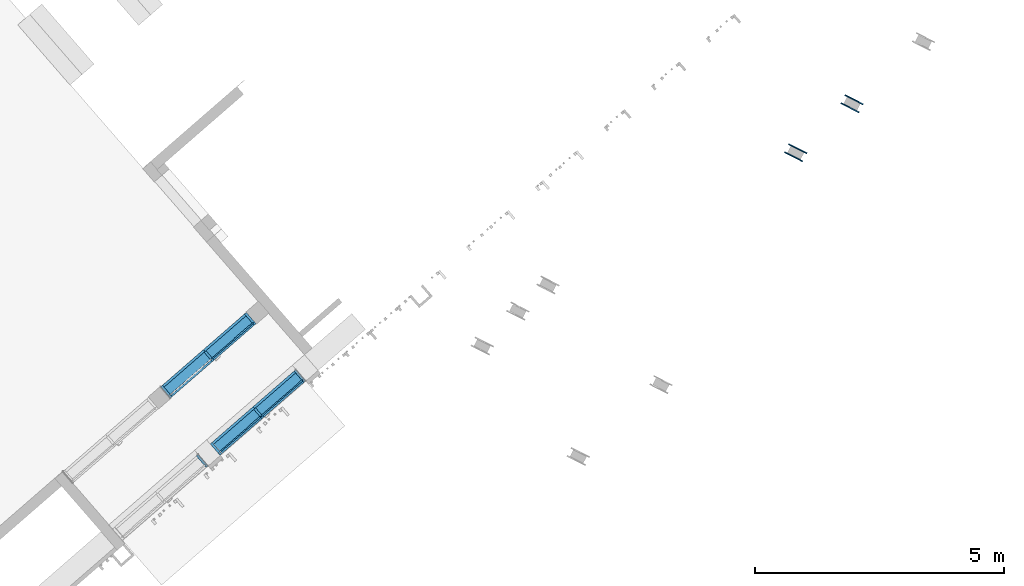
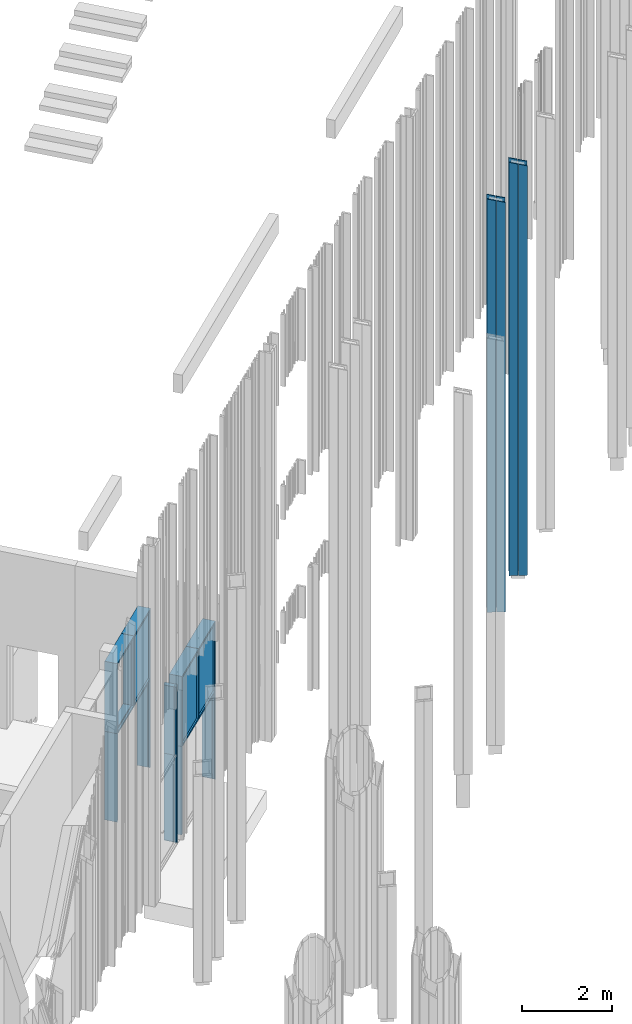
# One storey, part 41 of 390: 31 discrete accessories, 3 elements without a shape of their own.
"""IFC2X3 building model written with IfcOpenShell, lengths in millimetres."""

import ifcopenshell
import ifcopenshell.guid

model = None  # the IFC model being written
_history = None  # IfcOwnerHistory: only IFC2X3 demands one
_inside = {}  # id of a spatial element -> (the spatial element, [elements in it])
_under = {}  # id of a project, library or spatial element -> (it, [spatial elements below it])
_declared = {}  # id of a project -> (the project, [libraries it declares])
_typed = {}  # id of a type object -> (the type object, [elements of that type])
_made_of = {}  # id of a material, layer set ... -> (it, [elements and type objects made of it])


def new_model(schema):
    """Start an empty IFC model of exactly this schema.

    Asked for "IFC4X3", IfcOpenShell would pick the latest addendum, in which some entities
    have other attributes; the version numbers below select the first issue.
    IFC2X3 requires an IfcOwnerHistory on every rooted entity: one is made here for all.
    """
    global model, _history
    if schema == "IFC4X3":
        model = ifcopenshell.file(schema_version=(4, 3, 0, 0))
    else:
        model = ifcopenshell.file(schema=schema)
    _inside.clear()
    _under.clear()
    _declared.clear()
    _typed.clear()
    _made_of.clear()
    _history = None
    if model.schema == "IFC2X3":
        org = make("IfcOrganization", Name="unknown")
        user = make(
            "IfcPersonAndOrganization",
            ThePerson=make("IfcPerson", FamilyName="unknown"),
            TheOrganization=org,
        )
        app = make(
            "IfcApplication",
            ApplicationDeveloper=org,
            Version="unknown",
            ApplicationFullName="unknown",
            ApplicationIdentifier="unknown",
        )
        _history = make(
            "IfcOwnerHistory",
            OwningUser=user,
            OwningApplication=app,
            ChangeAction="ADDED",
            CreationDate=0,
        )
    return model


def make(cls, **values):
    """One entity of the class cls with the attributes given. An attribute that is None is left unset."""
    return model.create_entity(
        cls, **{name: value for name, value in values.items() if value is not None}
    )


def entity(cls, *values):
    """Any entity or typed value of the class cls, its attributes in the order of the schema. None: left unset."""
    e = model.create_entity(cls)
    for i, value in enumerate(values):
        if value is not None:
            e[i] = value
    return e


def rooted(cls, **values):
    """An entity with a GlobalId (a new one), such as an element, a storey or a relation."""
    return make(cls, GlobalId=ifcopenshell.guid.new(), OwnerHistory=_history, **values)


def si_unit(unit_type, name, prefix=None):
    """IfcSIUnit, for example si_unit("LENGTHUNIT", "METRE", prefix="MILLI")."""
    return make("IfcSIUnit", UnitType=unit_type, Prefix=prefix, Name=name)


def converted_unit(unit_type, name, factor, base, dimensions=None, offset=None):
    """IfcConversionBasedUnit, such as the inch: factor (a typed value) times the base unit."""
    return make(
        "IfcConversionBasedUnit"
        if offset is None
        else "IfcConversionBasedUnitWithOffset",
        ConversionOffset=offset,
        Dimensions=None
        if dimensions is None
        else entity("IfcDimensionalExponents", *dimensions),
        UnitType=unit_type,
        Name=name,
        ConversionFactor=make(
            "IfcMeasureWithUnit", ValueComponent=factor, UnitComponent=base
        ),
    )


def derived_unit(unit_type, elements):
    """IfcDerivedUnit: a product of units, each with its exponent."""
    return make(
        "IfcDerivedUnit",
        Elements=[
            make("IfcDerivedUnitElement", Unit=unit, Exponent=power)
            for unit, power in elements
        ],
        UnitType=unit_type,
    )


def money_unit(currency):
    """IfcMonetaryUnit."""
    return make("IfcMonetaryUnit", Currency=currency)


def assignment(units):
    """IfcUnitAssignment: the units of a project."""
    return None if units is None else make("IfcUnitAssignment", Units=units)


def point(xyz):
    """IfcCartesianPoint."""
    return None if xyz is None else make("IfcCartesianPoint", Coordinates=xyz)


def direction(xyz):
    """IfcDirection."""
    return None if xyz is None else make("IfcDirection", DirectionRatios=xyz)


def frame(location, z_axis=None, x_axis=None):
    """IfcAxis2Placement3D, a coordinate frame: its origin and axes. An axis left out is left unset."""
    return make(
        "IfcAxis2Placement3D",
        Location=point(location),
        Axis=direction(z_axis),
        RefDirection=direction(x_axis),
    )


def origin_with_axes():
    """The frame at (0, 0, 0) with the z axis (0, 0, 1) and the x axis (1, 0, 0) written out."""
    return frame((0.0, 0.0, 0.0), z_axis=(0.0, 0.0, 1.0), x_axis=(1.0, 0.0, 0.0))


def place(relative_to, where):
    """IfcLocalPlacement: puts the frame where relative to a parent placement (None: the world)."""
    return make(
        "IfcLocalPlacement", PlacementRelTo=relative_to, RelativePlacement=where
    )


def context(
    kind, dimensions, precision=None, world=None, true_north=None, identifier=None
):
    """IfcGeometricRepresentationContext, for example the 3D "Model" context."""
    return make(
        "IfcGeometricRepresentationContext",
        ContextIdentifier=identifier,
        ContextType=kind,
        CoordinateSpaceDimension=dimensions,
        Precision=precision,
        WorldCoordinateSystem=world,
        TrueNorth=true_north,
    )


def subcontext(parent, identifier, kind, view, scale=None):
    """IfcGeometricRepresentationSubContext, for example "Body" below "Model"."""
    return make(
        "IfcGeometricRepresentationSubContext",
        ContextIdentifier=identifier,
        ContextType=kind,
        ParentContext=parent,
        TargetScale=scale,
        TargetView=view,
    )


def project(units=None, contexts=None):
    """IfcProject with its units and contexts."""
    return rooted(
        "IfcProject",
        Name="project",
        RepresentationContexts=contexts,
        UnitsInContext=assignment(units),
    )


def spatial(cls, under=None, at=None, **own):
    """A site, building, storey or space (cls), placed at a placement, below another one or the project."""
    s = rooted(cls, ObjectPlacement=at, **own)
    if under is not None:
        _under.setdefault(under.id(), (under, []))[1].append(s)
    return s


def polyline(points):
    """IfcPolyline through the points."""
    return make("IfcPolyline", Points=[point(p) for p in points])


def outline(outer, holes=None, kind="AREA"):
    """IfcArbitraryClosedProfileDef: a profile drawn as a closed curve; with holes, ...WithVoids."""
    if holes is None:
        return make("IfcArbitraryClosedProfileDef", ProfileType=kind, OuterCurve=outer)
    return make(
        "IfcArbitraryProfileDefWithVoids",
        ProfileType=kind,
        OuterCurve=outer,
        InnerCurves=holes,
    )


def extrude(swept, where, along, depth):
    """IfcExtrudedAreaSolid: the profile swept, set in the frame where, extruded along a direction by depth."""
    return make(
        "IfcExtrudedAreaSolid",
        SweptArea=swept,
        Position=where,
        ExtrudedDirection=direction(along),
        Depth=depth,
    )


def clip(a, b, op="DIFFERENCE"):
    """IfcBooleanClippingResult: the solid a cut by the half space b."""
    return make(
        "IfcBooleanClippingResult", Operator=op, FirstOperand=a, SecondOperand=b
    )


def halfspace(plane, agree):
    """IfcHalfSpaceSolid: all space on one side of the plane z = 0 of the frame plane."""
    return make(
        "IfcHalfSpaceSolid",
        BaseSurface=make("IfcPlane", Position=plane),
        AgreementFlag=agree,
    )


def faces_of(points, faces, orient=None, outer=None):
    """IfcFace entities. A face is a list of loops; a loop is a list of indices into points, from 0.

    orient and outer hold one flag for each loop. By default every Orientation is true, the
    first loop of a face is its IfcFaceOuterBound and the others are IfcFaceBound.
    """
    made = []
    for i, loops in enumerate(faces):
        bounds = []
        for j, loop in enumerate(loops):
            is_outer = j == 0 if outer is None else outer[i][j]
            bounds.append(
                make(
                    "IfcFaceOuterBound" if is_outer else "IfcFaceBound",
                    Bound=make("IfcPolyLoop", Polygon=[points[k] for k in loop]),
                    Orientation=True if orient is None else orient[i][j],
                )
            )
        made.append(make("IfcFace", Bounds=bounds))
    return made


def faceted_brep(points, faces, orient=None, outer=None, voids=None):
    """IfcFacetedBrep: a solid bounded by flat faces; with voids (closed shells), ...WithVoids."""
    shared = [point(p) for p in points]
    hull = make("IfcClosedShell", CfsFaces=faces_of(shared, faces, orient, outer))
    if voids is None:
        return make("IfcFacetedBrep", Outer=hull)
    return make(
        "IfcFacetedBrepWithVoids",
        Outer=hull,
        Voids=[
            make(cls, CfsFaces=faces_of(shared, fs, o, b)) for cls, fs, o, b in voids
        ],
    )


def shape(context_of_items, identifier, shape_type, items):
    """IfcShapeRepresentation: the items that make up one representation, for example the "Body"."""
    return make(
        "IfcShapeRepresentation",
        ContextOfItems=context_of_items,
        RepresentationIdentifier=identifier,
        RepresentationType=shape_type,
        Items=items,
    )


def source(mapping_origin, context_of_items, identifier, shape_type, items):
    """IfcRepresentationMap: a shape defined once, which mapped items show again and again."""
    return make(
        "IfcRepresentationMap",
        MappingOrigin=mapping_origin,
        MappedRepresentation=shape(context_of_items, identifier, shape_type, items),
    )


def transform(
    local_origin,
    x_axis=None,
    y_axis=None,
    z_axis=None,
    scale=None,
    scale2=None,
    scale3=None,
    uniform=True,
):
    """IfcCartesianTransformationOperator3D, or its non-uniform kind. x_axis, y_axis, z_axis: its Axis1, 2, 3."""
    if uniform:
        return make(
            "IfcCartesianTransformationOperator3D",
            Axis1=direction(x_axis),
            Axis2=direction(y_axis),
            LocalOrigin=point(local_origin),
            Scale=scale,
            Axis3=direction(z_axis),
        )
    return make(
        "IfcCartesianTransformationOperator3DnonUniform",
        Axis1=direction(x_axis),
        Axis2=direction(y_axis),
        LocalOrigin=point(local_origin),
        Scale=scale,
        Axis3=direction(z_axis),
        Scale2=scale2,
        Scale3=scale3,
    )


def mapped(mapping_source, mapping_target):
    """IfcMappedItem: shows the shape of a source again, moved by a transform."""
    return make(
        "IfcMappedItem", MappingSource=mapping_source, MappingTarget=mapping_target
    )


def material(Name=None, Category=None):
    """IfcMaterial."""
    return make("IfcMaterial", Name=Name, Category=Category)


def material_list(materials):
    """IfcMaterialList."""
    return make("IfcMaterialList", Materials=materials)


def made_of(thing, what):
    """Note that an element or type object is made of a material, layer set ...; save() writes the relation."""
    if what is not None:
        _made_of.setdefault(what.id(), (what, []))[1].append(thing)
    return thing


def type_object(cls, material=None, **own):
    """A type object (cls), such as IfcWallType, which elements share."""
    return made_of(rooted(cls, **own), material)


def element(
    cls,
    number,
    at=None,
    inside=None,
    cuts=None,
    type_object=None,
    material=None,
    context=None,
    identifier="Body",
    shape_type=None,
    held_by="IfcProductDefinitionShape",
    body=None,
    shapes=None,
    **own,
):
    """One element of the class cls, such as IfcWall. Its Tag is "e" and its number.

    at: its placement. inside: the storey or other place that contains it. cuts: it is an
    opening in that element (IfcRelVoidsElement). A single representation is given by context,
    identifier, shape_type and body (its items); several are given by shapes. held_by: the class
    of the entity that holds the representations. save() writes the other relations.
    """
    e = rooted(cls, Tag="e%d" % number, ObjectPlacement=at, **own)
    if body is not None:
        shapes = [shape(context, identifier, shape_type, body)]
    if shapes is not None:
        e.Representation = make(held_by, Representations=shapes)
    if inside is not None:
        _inside.setdefault(inside.id(), (inside, []))[1].append(e)
    if cuts is not None:
        rooted(
            "IfcRelVoidsElement", RelatingBuildingElement=cuts, RelatedOpeningElement=e
        )
    if type_object is not None:
        _typed.setdefault(type_object.id(), (type_object, []))[1].append(e)
    return made_of(e, material)


def aggregate(whole, parts):
    """IfcRelAggregates: a whole, such as a stair, and the parts it consists of."""
    return rooted("IfcRelAggregates", RelatingObject=whole, RelatedObjects=parts)


def save(model, path):
    """Write the relations noted so far, then the file.

    IfcRelAggregates (storeys below a building ...), IfcRelContainedInSpatialStructure (elements
    in a storey), IfcRelDefinesByType, IfcRelAssociatesMaterial and IfcRelDeclares: one each for
    every whole, place, type object, material and project.
    """
    for whole, parts in _under.values():
        aggregate(whole, parts)
    for where, things in _inside.values():
        rooted(
            "IfcRelContainedInSpatialStructure",
            RelatedElements=things,
            RelatingStructure=where,
        )
    for kind, things in _typed.values():
        rooted("IfcRelDefinesByType", RelatedObjects=things, RelatingType=kind)
    for what, things in _made_of.values():
        rooted("IfcRelAssociatesMaterial", RelatedObjects=things, RelatingMaterial=what)
    for by, libraries in _declared.values():
        rooted("IfcRelDeclares", RelatingContext=by, RelatedDefinitions=libraries)
    model.write(path)


model = new_model("IFC2X3")

# Units and contexts
model_context = context("Model", 3, precision=1e-05, world=origin_with_axes(), true_north=direction((0.0, 1.0)))
body_context = subcontext(model_context, "Body", "Model", "MODEL_VIEW")
ifc_project = project(units=[si_unit("LENGTHUNIT", "METRE", prefix="MILLI"), si_unit("AREAUNIT", "SQUARE_METRE"), si_unit("VOLUMEUNIT", "CUBIC_METRE"), converted_unit("PLANEANGLEUNIT", "DEGREE", entity("IfcPlaneAngleMeasure", 0.0174532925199), si_unit("PLANEANGLEUNIT", "RADIAN"), dimensions=[0, 0, 0, 0, 0, 0, 0]), si_unit("SOLIDANGLEUNIT", "STERADIAN"), money_unit("EUR"), converted_unit("TIMEUNIT", "Year", entity("IfcTimeMeasure", 31556926.0), si_unit("TIMEUNIT", "SECOND"), dimensions=[0, 0, 1, 0, 0, 0, 0]), si_unit("MASSUNIT", "GRAM", prefix="KILO"), si_unit("THERMODYNAMICTEMPERATUREUNIT", "DEGREE_CELSIUS"), si_unit("LUMINOUSINTENSITYUNIT", "LUMEN"), si_unit("ENERGYUNIT", "JOULE", prefix="MEGA"), derived_unit("THERMALCONDUCTANCEUNIT", [(si_unit("POWERUNIT", "WATT"), 1), (si_unit("LENGTHUNIT", "METRE"), -1), (si_unit("THERMODYNAMICTEMPERATUREUNIT", "KELVIN"), -1)]), derived_unit("SPECIFICHEATCAPACITYUNIT", [(si_unit("ENERGYUNIT", "JOULE"), 1), (si_unit("MASSUNIT", "GRAM", prefix="KILO"), -1), (si_unit("THERMODYNAMICTEMPERATUREUNIT", "KELVIN"), -1)]), derived_unit("MASSDENSITYUNIT", [(si_unit("MASSUNIT", "GRAM", prefix="KILO"), 1), (si_unit("VOLUMEUNIT", "CUBIC_METRE"), -1)])], contexts=[model_context])

# Site, building, storey
site_placement = place(None, origin_with_axes())
site = spatial("IfcSite", under=ifc_project, at=site_placement, Name="Site", CompositionType="ELEMENT")
building_placement = place(site_placement, origin_with_axes())
building = spatial("IfcBuilding", under=site, at=building_placement, Name="Building", CompositionType="ELEMENT")
storey_placement = place(building_placement, origin_with_axes())
storey = spatial("IfcBuildingStorey", under=building, at=storey_placement, Name="1 korrus", CompositionType="ELEMENT", Elevation=0.0)

# Curtain wall, discrete accessories
curtain_wall_type_1 = type_object("IfcCurtainWallType", Name="KLF-11", PredefinedType="NOTDEFINED")
curtain_wall_1_placement = place(storey_placement, frame((147184.214705, 72790.554617, -9.48523471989e-05), z_axis=(0.0, 0.0, 1.0), x_axis=(1.0, 0.0, 0.0)))
curtain_wall_1 = element("IfcCurtainWall", 1, at=curtain_wall_1_placement, inside=storey, type_object=curtain_wall_type_1, Name="Klaasfassaad")
ifc_material_1 = material(Name="Klaas")
discrete_accessory_type_1 = type_object("IfcDiscreteAccessoryType", Name="Distinct Panel 1120 x 1880 x 20")
discrete_accessory_1_placement = place(curtain_wall_1_placement, frame((0.0, 0.0, 3350.00012567), z_axis=(0.0, 0.0, 1.0), x_axis=(0.754709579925, 0.656059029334, 0.0)))
discrete_accessory_1 = element("IfcDiscreteAccessory", 2, at=discrete_accessory_1_placement, type_object=discrete_accessory_type_1, material=ifc_material_1, Name="KLF-11 klaaspakett", context=body_context, shape_type="SweptSolid", body=[
    extrude(outline(polyline([(-549.999988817, -930.000042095), (570.000002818, -930.000042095), (570.000002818, 950.000030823), (-549.999988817, 950.000030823), (-549.999988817, -930.000042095)])), frame((0.0, -10.0, 0.0), z_axis=(0.0, 1.0, 0.0), x_axis=(1.0, 0.0, 0.0)), (0.0, 0.0, 1.0), 20.0),
])
discrete_accessory_type_2 = type_object("IfcDiscreteAccessoryType", Name="Main Panel 1120 x 1880 x 20")
discrete_accessory_2_placement = place(curtain_wall_1_placement, frame((860.368921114, 747.90729344, 3350.00012567), z_axis=(0.0, 0.0, 1.0), x_axis=(0.754709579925, 0.656059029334, 0.0)))
discrete_accessory_2 = element("IfcDiscreteAccessory", 3, at=discrete_accessory_2_placement, type_object=discrete_accessory_type_2, material=ifc_material_1, Name="KLF-11 klaaspakett", context=body_context, shape_type="SweptSolid", body=[
    extrude(outline(polyline([(-570.000008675, -930.000042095), (550.000011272, -930.000042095), (550.000011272, 950.000030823), (-570.000008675, 950.000030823), (-570.000008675, -930.000042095)])), frame((0.0, -9.99999999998, 0.0), z_axis=(0.0, 1.0, 0.0), x_axis=(1.0, 0.0, 0.0)), (0.0, 0.0, 1.0), 20.0),
])
ifc_material_2 = material(Name="Aluminium MUST")
discrete_accessory_type_3 = type_object("IfcDiscreteAccessoryType", Name="50 x 300")
discrete_accessory_3_placement = place(curtain_wall_1_placement, frame((1290.55338167, 1121.86094016, 2400.00009485), z_axis=(0.0, 0.0, 1.0), x_axis=(0.754709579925, 0.656059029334, 0.0)))
discrete_accessory_3 = element("IfcDiscreteAccessory", 4, at=discrete_accessory_3_placement, type_object=discrete_accessory_type_3, material=ifc_material_2, Name="KLF-11 profiil", context=body_context, shape_type="Clipping", body=[
    clip(extrude(outline(polyline([(-25.4283297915, -8.85437993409), (-12.3071492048, -23.9485715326), (-31.1748887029, -40.3500472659), (-4.93252752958, -70.5384304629), (32.8029514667, -37.7354789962), (-164.014757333, 188.677394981), (-201.75023633, 155.874443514), (-44.2960692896, -25.2558556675), (-25.4283297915, -8.85437993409)])), frame((0.0, 0.0, 0.0), z_axis=(0.0, 0.0, 1.0), x_axis=(0.754709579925, -0.656059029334, 0.0)), (0.0, 0.0, 1.0), 1900.00006165), halfspace(frame((-950.000030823, 0.0, 950.000030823), z_axis=(0.707106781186, 0.0, -0.707106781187), x_axis=(0.0, 1.0, 0.0)), True)),
])
discrete_accessory_4_placement = place(curtain_wall_1_placement, frame((-430.184460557, -373.95364672, 0.0), z_axis=(0.0, 0.0, 1.0), x_axis=(0.754709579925, 0.656059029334, 0.0)))
discrete_accessory_4 = element("IfcDiscreteAccessory", 5, at=discrete_accessory_4_placement, type_object=discrete_accessory_type_3, material=ifc_material_2, Name="KLF-11 profiil", context=body_context, shape_type="Clipping", body=[
    clip(extrude(outline(polyline([(12.3071492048, 23.9485715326), (31.1748887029, 40.3500472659), (-126.279278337, 221.480346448), (-164.014757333, 188.677394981), (32.8029514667, -37.7354789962), (70.5384304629, -4.93252752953), (44.2960692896, 25.2558556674), (25.4283297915, 8.85437993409), (12.3071492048, 23.9485715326)])), frame((0.0, 0.0, 0.0), z_axis=(0.0, 0.0, 1.0), x_axis=(0.754709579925, -0.656059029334, 0.0)), (0.0, 0.0, 1.0), 2400.00009485), halfspace(frame((0.0, 0.0, 0.0), z_axis=(-0.707106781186, 0.0, 0.707106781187), x_axis=(0.0, -1.0, 0.0)), True)),
])
discrete_accessory_5_placement = place(curtain_wall_1_placement, frame((1290.55338167, 1121.86094016, 4300.0001565), z_axis=(-0.754709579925, -0.656059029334, 0.0), x_axis=(0.0, 0.0, 1.0)))
discrete_accessory_5 = element("IfcDiscreteAccessory", 6, at=discrete_accessory_5_placement, type_object=discrete_accessory_type_3, material=ifc_material_2, Name="KLF-11 profiil", context=body_context, shape_type="Clipping", body=[
    clip(extrude(outline(polyline([(10.0, 25.0), (-9.99999999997, 25.0), (-9.99999999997, 50.0), (-50.0, 50.0), (-50.0, 0.0), (250.0, 0.0), (250.0, 50.0), (10.0, 50.0), (10.0, 25.0)])), frame((0.0, 0.0, 0.0), z_axis=(0.0, 0.0, 1.0), x_axis=(0.0, 1.0, 0.0)), (0.0, 0.0, 1.0), 1140.0), halfspace(frame((0.0, 0.0, 0.0), z_axis=(0.707106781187, 0.0, 0.707106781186), x_axis=(0.0, -1.0, 0.0)), True)),
])
discrete_accessory_6_placement = place(curtain_wall_1_placement, frame((430.184460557, 373.95364672, 4300.0001565), z_axis=(-0.754709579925, -0.656059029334, 0.0), x_axis=(0.0, 0.0, 1.0)))
discrete_accessory_6 = element("IfcDiscreteAccessory", 7, at=discrete_accessory_6_placement, type_object=discrete_accessory_type_3, material=ifc_material_2, Name="KLF-11 profiil", context=body_context, shape_type="Clipping", body=[
    clip(extrude(outline(polyline([(10.0, 25.0), (-9.99999999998, 25.0), (-9.99999999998, 50.0), (-50.0, 50.0), (-50.0, 0.0), (250.0, 0.0), (250.0, 50.0), (10.0, 50.0), (10.0, 25.0)])), frame((0.0, 0.0, 0.0), z_axis=(0.0, 0.0, 1.0), x_axis=(0.0, 1.0, 0.0)), (0.0, 0.0, 1.0), 1140.0), halfspace(frame((-570.0, 0.0, 570.0), z_axis=(0.707106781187, 0.0, -0.707106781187), x_axis=(0.0, 1.0, 0.0)), True)),
])
discrete_accessory_7_placement = place(curtain_wall_1_placement, frame((-430.184460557, -373.95364672, 2400.00009485), z_axis=(0.0, 0.0, 1.0), x_axis=(0.754709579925, 0.656059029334, 0.0)))
discrete_accessory_7 = element("IfcDiscreteAccessory", 8, at=discrete_accessory_7_placement, type_object=discrete_accessory_type_3, material=ifc_material_2, Name="KLF-11 profiil", context=body_context, shape_type="Clipping", body=[
    clip(extrude(outline(polyline([(12.3071492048, 23.9485715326), (31.1748887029, 40.3500472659), (-126.279278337, 221.480346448), (-164.014757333, 188.677394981), (32.8029514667, -37.7354789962), (70.5384304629, -4.93252752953), (44.2960692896, 25.2558556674), (25.4283297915, 8.85437993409), (12.3071492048, 23.9485715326)])), frame((0.0, 0.0, 0.0), z_axis=(0.0, 0.0, 1.0), x_axis=(0.754709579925, -0.656059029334, 0.0)), (0.0, 0.0, 1.0), 1900.00006165), halfspace(frame((950.000030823, 0.0, 950.000030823), z_axis=(-0.707106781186, 0.0, -0.707106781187), x_axis=(0.0, 1.0, 0.0)), True)),
])
discrete_accessory_8_placement = place(curtain_wall_1_placement, frame((1290.55338167, 1121.86094016, 0.0), z_axis=(0.0, 0.0, 1.0), x_axis=(0.754709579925, 0.656059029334, 0.0)))
discrete_accessory_8 = element("IfcDiscreteAccessory", 9, at=discrete_accessory_8_placement, type_object=discrete_accessory_type_3, material=ifc_material_2, Name="KLF-11 profiil", context=body_context, shape_type="Clipping", body=[
    clip(extrude(outline(polyline([(-25.4283297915, -8.85437993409), (-12.3071492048, -23.9485715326), (-31.1748887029, -40.3500472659), (-4.93252752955, -70.5384304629), (32.8029514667, -37.7354789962), (-164.014757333, 188.677394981), (-201.75023633, 155.874443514), (-44.2960692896, -25.2558556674), (-25.4283297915, -8.85437993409)])), frame((0.0, 0.0, 0.0), z_axis=(0.0, 0.0, 1.0), x_axis=(0.754709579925, -0.656059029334, 0.0)), (0.0, 0.0, 1.0), 2400.00009485), halfspace(frame((0.0, 0.0, 0.0), z_axis=(0.707106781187, 0.0, 0.707106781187), x_axis=(0.0, -1.0, 0.0)), True)),
])

curtain_wall_2_placement = place(storey_placement, frame((145221.984499, 71084.8139219, -9.48523471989e-05), z_axis=(0.0, 0.0, 1.0), x_axis=(1.0, 0.0, 0.0)))
curtain_wall_2 = element("IfcCurtainWall", 10, at=curtain_wall_2_placement, inside=storey, type_object=curtain_wall_type_1, Name="Klaasfassaad")
discrete_accessory_9_placement = place(curtain_wall_2_placement, frame((1290.55338167, 1121.86094016, 2400.00009485), z_axis=(0.0, 0.0, 1.0), x_axis=(0.754709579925, 0.656059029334, 0.0)))
discrete_accessory_9 = element("IfcDiscreteAccessory", 11, at=discrete_accessory_9_placement, type_object=discrete_accessory_type_3, material=ifc_material_2, Name="KLF-11 profiil", context=body_context, shape_type="Clipping", body=[
    clip(extrude(outline(polyline([(-25.4283297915, -8.85437993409), (-12.3071492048, -23.9485715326), (-31.1748887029, -40.3500472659), (-4.93252752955, -70.5384304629), (32.8029514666, -37.7354789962), (-164.014757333, 188.677394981), (-201.75023633, 155.874443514), (-44.2960692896, -25.2558556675), (-25.4283297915, -8.85437993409)])), frame((0.0, 0.0, 0.0), z_axis=(0.0, 0.0, 1.0), x_axis=(0.754709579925, -0.656059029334, 0.0)), (0.0, 0.0, 1.0), 1900.00006165), halfspace(frame((-950.000030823, 0.0, 950.000030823), z_axis=(0.707106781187, 0.0, -0.707106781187), x_axis=(0.0, 1.0, 0.0)), True)),
])
discrete_accessory_10_placement = place(curtain_wall_2_placement, frame((1290.55338167, 1121.86094016, 0.0), z_axis=(0.0, 0.0, 1.0), x_axis=(0.754709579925, 0.656059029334, 0.0)))
discrete_accessory_10 = element("IfcDiscreteAccessory", 12, at=discrete_accessory_10_placement, type_object=discrete_accessory_type_3, material=ifc_material_2, Name="KLF-11 profiil", context=body_context, shape_type="Clipping", body=[
    clip(extrude(outline(polyline([(-25.4283297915, -8.85437993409), (-12.3071492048, -23.9485715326), (-31.1748887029, -40.3500472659), (-4.93252752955, -70.5384304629), (32.8029514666, -37.7354789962), (-164.014757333, 188.677394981), (-201.75023633, 155.874443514), (-44.2960692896, -25.2558556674), (-25.4283297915, -8.85437993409)])), frame((0.0, 0.0, 0.0), z_axis=(0.0, 0.0, 1.0), x_axis=(0.754709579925, -0.656059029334, 0.0)), (0.0, 0.0, 1.0), 2400.00009485), halfspace(frame((0.0, 0.0, 0.0), z_axis=(0.707106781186, 0.0, 0.707106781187), x_axis=(0.0, -1.0, 0.0)), True)),
])
aggregate(curtain_wall_2, [discrete_accessory_9, discrete_accessory_10])

# Discrete accessory
ifc_material_list = material_list([ifc_material_2, ifc_material_2])
discrete_accessory_type_4 = type_object("IfcDiscreteAccessoryType", Name="50 x 250")
discrete_accessory_11_placement = place(curtain_wall_1_placement, frame((430.184460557, 373.95364672, 2400.00009485), z_axis=(-0.754709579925, -0.656059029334, 0.0), x_axis=(0.0, 0.0, 1.0)))
discrete_accessory_11 = element("IfcDiscreteAccessory", 13, at=discrete_accessory_11_placement, type_object=discrete_accessory_type_4, material=ifc_material_list, Name="KLF-11 profiil", context=body_context, shape_type="SweptSolid", body=[
    extrude(outline(polyline([(10.0, -25.0), (200.0, -25.0), (200.0, 25.0), (10.0, 25.0), (10.0, -25.0)])), frame((0.0, 0.0, 25.0), z_axis=(0.0, 0.0, 1.0), x_axis=(0.0, 1.0, 0.0)), (0.0, 0.0, 1.0), 1065.0),
    extrude(outline(polyline([(-10.0, 25.0), (-50.0, 25.0), (-50.0, -25.0), (-10.0, -25.0), (-10.0, 25.0)])), frame((0.0, 0.0, 25.0), z_axis=(0.0, 0.0, 1.0), x_axis=(0.0, 1.0, 0.0)), (0.0, 0.0, 1.0), 1065.0),
])

discrete_accessory_12_placement = place(curtain_wall_1_placement, frame((430.184460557, 373.95364672, 2400.00009485), z_axis=(0.0, 0.0, 1.0), x_axis=(0.754709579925, 0.656059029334, 0.0)))
discrete_accessory_12 = element("IfcDiscreteAccessory", 14, at=discrete_accessory_12_placement, type_object=discrete_accessory_type_4, material=ifc_material_list, Name="KLF-11 profiil", context=body_context, shape_type="SweptSolid", body=[
    extrude(outline(polyline([(12.3071492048, 23.9485715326), (-112.344066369, 167.343391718), (-150.079545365, 134.540440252), (-25.4283297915, -8.85437993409), (12.3071492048, 23.9485715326)])), frame((0.0, 0.0, -25.0), z_axis=(0.0, 0.0, 1.0), x_axis=(0.754709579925, -0.656059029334, 0.0)), (0.0, 0.0, 1.0), 1875.00006165),
    extrude(outline(polyline([(-12.3071492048, -23.9485715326), (13.9352119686, -54.1369547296), (51.6706909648, -21.3340032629), (25.4283297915, 8.85437993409), (-12.3071492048, -23.9485715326)])), frame((0.0, 0.0, -25.0), z_axis=(0.0, 0.0, 1.0), x_axis=(0.754709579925, -0.656059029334, 0.0)), (0.0, 0.0, 1.0), 1875.00006165),
])

discrete_accessory_13_placement = place(curtain_wall_1_placement, frame((1290.55338167, 1121.86094016, 2400.00009485), z_axis=(-0.754709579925, -0.656059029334, 0.0), x_axis=(0.0, 0.0, 1.0)))
discrete_accessory_13 = element("IfcDiscreteAccessory", 15, at=discrete_accessory_13_placement, type_object=discrete_accessory_type_4, material=ifc_material_list, Name="KLF-11 profiil", context=body_context, shape_type="SweptSolid", body=[
    extrude(outline(polyline([(10.0, -25.0), (200.0, -25.0), (200.0, 25.0), (10.0, 25.0), (10.0, -25.0)])), frame((0.0, 0.0, 50.0000000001), z_axis=(0.0, 0.0, 1.0), x_axis=(0.0, 1.0, 0.0)), (0.0, 0.0, 1.0), 1065.0),
    extrude(outline(polyline([(-10.0, 25.0), (-50.0, 25.0), (-50.0, -25.0), (-10.0, -25.0), (-10.0, 25.0)])), frame((0.0, 0.0, 50.0), z_axis=(0.0, 0.0, 1.0), x_axis=(0.0, 1.0, 0.0)), (0.0, 0.0, 1.0), 1065.0),
])

aggregate(curtain_wall_1, [discrete_accessory_1, discrete_accessory_2, discrete_accessory_3, discrete_accessory_11, discrete_accessory_12, discrete_accessory_4, discrete_accessory_13, discrete_accessory_5, discrete_accessory_6, discrete_accessory_7, discrete_accessory_8])

# Curtain wall, discrete accessory
curtain_wall_type_2 = type_object("IfcCurtainWallType", Name="KS-16", PredefinedType="NOTDEFINED")
curtain_wall_3_placement = place(storey_placement, frame((146495.325504, 74205.7322919, -4.47035263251e-05), z_axis=(0.0, 0.0, 1.0), x_axis=(1.0, 0.0, 0.0)))
curtain_wall_3 = element("IfcCurtainWall", 16, at=curtain_wall_3_placement, inside=storey, type_object=curtain_wall_type_2, Name="Klaas-sein")
discrete_accessory_type_5 = type_object("IfcDiscreteAccessoryType", Name="Main Panel 1120 x 1880 x 20")
discrete_accessory_14_placement = place(curtain_wall_3_placement, frame((552.048266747, 479.888237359, 3350.00006142), z_axis=(0.0, 0.0, 1.0), x_axis=(0.754709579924, 0.656059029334, 0.0)))
discrete_accessory_14 = element("IfcDiscreteAccessory", 17, at=discrete_accessory_14_placement, type_object=discrete_accessory_type_5, material=ifc_material_1, Name="KS-16 klaaspakett", context=body_context, shape_type="SweptSolid", body=[
    extrude(outline(polyline([(-570.000015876, -929.999973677), (550.000008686, -930.000058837), (550.000008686, 950.000004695), (-569.999987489, 950.000004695), (-570.000015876, -929.999973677)])), frame((0.0, -9.99999999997, 0.0), z_axis=(0.0, 1.0, 0.0), x_axis=(1.0, 0.0, 0.0)), (0.0, 0.0, 1.0), 20.0),
])

# Discrete accessories
ifc_material_3 = material(Name="GENEERILINE - VÄLINE VOODER")
discrete_accessory_type_6 = type_object("IfcDiscreteAccessoryType", Name="GENEERILINE - VÄLINE VOODER")
shared_shape_1 = source(origin_with_axes(), body_context, "Body", "Brep", [
    faceted_brep([(-162214.734723, 119652.308107, 9546.41016151), (-162214.734723, 119652.308107, -1615.0), (-162190.360855, 119453.798876, -1615.0), (-162190.360855, 119453.798876, 9600.0), (-162192.898708, 119654.989232, -1615.0), (-162192.898708, 119654.989232, 9546.41016151), (-162168.524839, 119456.480002, -1615.0), (-162168.524839, 119456.480002, 9600.0)], [[[0, 1, 2, 3]], [[4, 1, 0, 5]], [[1, 4, 6, 2]], [[3, 2, 6, 7]], [[5, 0, 3, 7]], [[6, 4, 5, 7]]]),
])
for number, where, z_axis, x_axis in (
    (18, (-31595.2191361, 10814.1284509, 0.0), (0.0, 0.0, 1.0), (-0.559192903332, -0.829037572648, 0.0)),
    (19, (-30463.1547658, 11798.2169944, 0.0), (0.0, 0.0, 1.0), (-0.559192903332, -0.829037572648, 0.0)),
):
    element("IfcDiscreteAccessory", number, at=place(storey_placement, frame(where, z_axis=z_axis, x_axis=x_axis)), inside=storey, type_object=discrete_accessory_type_6, material=ifc_material_3, Name="Päikesevarjestuspost", context=body_context, shape_type="MappedRepresentation", body=[
        mapped(shared_shape_1, transform((0.0, 0.0, 0.0))),
    ])

# Discrete accessory
discrete_accessory_type_7 = type_object("IfcDiscreteAccessoryType", Name="50 x 300")
discrete_accessory_15_placement = place(curtain_wall_3_placement, frame((-738.505114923, -641.972702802, 4300.00011157), z_axis=(0.754709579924, 0.656059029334, -5.86570402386e-08), x_axis=(-4.42690301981e-08, -3.84824808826e-08, -1.0)))
discrete_accessory_15 = element("IfcDiscreteAccessory", 20, at=discrete_accessory_15_placement, type_object=discrete_accessory_type_7, material=ifc_material_2, Name="KS-16 profiil", context=body_context, shape_type="Clipping", body=[
    clip(extrude(outline(polyline([(-10.0, 24.999933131), (-10.0, 49.999933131), (-250.0, 49.999933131), (-250.0, -6.68690258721e-05), (50.0, -6.68690258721e-05), (50.0, 49.999933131), (10.0, 49.999933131), (10.0, 24.999933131), (-10.0, 24.999933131)])), frame((0.0, 0.0, 0.0), z_axis=(0.0, 0.0, 1.0), x_axis=(0.0, -1.0, 0.0)), (0.0, 0.0, 1.0), 1140.00000587), halfspace(frame((0.0, 0.0, 0.0), z_axis=(-0.707106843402, 0.0, 0.707106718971), x_axis=(0.0, -1.0, 0.0)), True)),
])

discrete_accessory_16_placement = place(curtain_wall_3_placement, frame((121.863806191, 105.934590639, 4300.0000447), z_axis=(0.754709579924, 0.656059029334, 5.86570402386e-08), x_axis=(4.42690301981e-08, 3.84824808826e-08, -1.0)))
discrete_accessory_16 = element("IfcDiscreteAccessory", 21, at=discrete_accessory_16_placement, type_object=discrete_accessory_type_7, material=ifc_material_2, Name="KS-16 profiil", context=body_context, shape_type="Clipping", body=[
    clip(extrude(outline(polyline([(-10.0, 25.0000654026), (-10.0, 50.0000639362), (-250.0, 50.0000639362), (-250.0, 6.68690258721e-05), (50.0, 6.68690258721e-05), (50.0, 50.0000639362), (9.99999999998, 50.0000639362), (9.99999999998, 25.0000654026), (-10.0, 25.0000654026)])), frame((0.0, 0.0, -5.8658429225e-06), z_axis=(0.0, 0.0, 1.0), x_axis=(0.0, -1.0, 0.0)), (0.0, 0.0, 1.0), 1140.00000587), halfspace(frame((570.000033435, 0.0, 569.999933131), z_axis=(-0.707106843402, 0.0, -0.707106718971), x_axis=(0.0, 1.0, 0.0)), True)),
])

discrete_accessory_17_placement = place(curtain_wall_3_placement, frame((982.232727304, 853.84188408, 2400.0000447), z_axis=(0.0, 0.0, 1.0), x_axis=(0.754709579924, 0.656059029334, 0.0)))
discrete_accessory_17 = element("IfcDiscreteAccessory", 22, at=discrete_accessory_17_placement, type_object=discrete_accessory_type_7, material=ifc_material_2, Name="KS-16 profiil", context=body_context, shape_type="Clipping", body=[
    clip(extrude(outline(polyline([(-25.4283297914, -8.85437993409), (-12.3071492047, -23.9485715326), (-31.1748887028, -40.3500472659), (-4.93252752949, -70.5384304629), (32.8029514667, -37.7354789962), (-164.014757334, 188.677394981), (-201.75023633, 155.874443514), (-44.2960692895, -25.2558556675), (-25.4283297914, -8.85437993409)])), frame((0.0, 0.0, 0.0), z_axis=(0.0, 0.0, 1.0), x_axis=(0.754709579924, -0.656059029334, 0.0)), (0.0, 0.0, 1.0), 1900.00006687), halfspace(frame((-950.000033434, 0.0, 949.99997771), z_axis=(0.707106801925, 0.0, -0.707106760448), x_axis=(0.0, 1.0, 0.0)), True)),
])

discrete_accessory_18_placement = place(curtain_wall_3_placement, frame((-738.505114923, -641.972702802, 2400.0000447), z_axis=(0.0, 0.0, 1.0), x_axis=(0.754709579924, 0.656059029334, 0.0)))
discrete_accessory_18 = element("IfcDiscreteAccessory", 23, at=discrete_accessory_18_placement, type_object=discrete_accessory_type_7, material=ifc_material_2, Name="KS-16 profiil", context=body_context, shape_type="Clipping", body=[
    clip(extrude(outline(polyline([(12.3071492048, 23.9485715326), (31.1748887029, 40.3500472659), (-126.279278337, 221.480346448), (-164.014757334, 188.677394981), (32.8029514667, -37.7354789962), (70.5384304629, -4.93252752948), (44.2960692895, 25.2558556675), (25.4283297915, 8.85437993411), (12.3071492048, 23.9485715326)])), frame((0.0, 0.0, 0.0), z_axis=(0.0, 0.0, 1.0), x_axis=(0.754709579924, -0.656059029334, 0.0)), (0.0, 0.0, 1.0), 1900.00006687), halfspace(frame((950.000033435, 0.0, 949.99997771), z_axis=(-0.707106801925, 0.0, -0.707106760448), x_axis=(0.0, 1.0, 0.0)), True)),
])

discrete_accessory_19_placement = place(curtain_wall_3_placement, frame((982.232727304, 853.84188408, 0.0), z_axis=(0.0, 0.0, 1.0), x_axis=(0.754709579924, 0.656059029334, 0.0)))
discrete_accessory_19 = element("IfcDiscreteAccessory", 24, at=discrete_accessory_19_placement, type_object=discrete_accessory_type_7, material=ifc_material_2, Name="KS-16 profiil", context=body_context, shape_type="SweptSolid", body=[
    extrude(outline(polyline([(-25.4283297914, -8.85437993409), (-12.3071492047, -23.9485715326), (-31.1748887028, -40.3500472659), (-4.93252752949, -70.5384304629), (32.8029514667, -37.7354789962), (-164.014757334, 188.677394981), (-201.75023633, 155.874443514), (-44.2960692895, -25.2558556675), (-25.4283297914, -8.85437993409)])), frame((0.0, 0.0, 0.0), z_axis=(0.0, 0.0, 1.0), x_axis=(0.754709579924, -0.656059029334, 0.0)), (0.0, 0.0, 1.0), 2400.0000447),
])

discrete_accessory_20_placement = place(curtain_wall_3_placement, frame((-738.505114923, -641.972702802, 0.0), z_axis=(0.0, 0.0, 1.0), x_axis=(0.754709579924, 0.656059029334, 0.0)))
discrete_accessory_20 = element("IfcDiscreteAccessory", 25, at=discrete_accessory_20_placement, type_object=discrete_accessory_type_7, material=ifc_material_2, Name="KS-16 profiil", context=body_context, shape_type="Clipping", body=[
    clip(extrude(outline(polyline([(12.3071492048, 23.9485715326), (31.1748887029, 40.3500472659), (-126.279278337, 221.480346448), (-164.014757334, 188.677394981), (32.8029514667, -37.7354789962), (70.5384304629, -4.93252752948), (44.2960692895, 25.2558556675), (25.4283297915, 8.85437993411), (12.3071492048, 23.9485715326)])), frame((0.0, 0.0, 0.0), z_axis=(0.0, 0.0, 1.0), x_axis=(0.754709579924, -0.656059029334, 0.0)), (0.0, 0.0, 1.0), 2400.0000447), halfspace(frame((0.0, 0.0, 0.0), z_axis=(-0.707106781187, 0.0, 0.707106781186), x_axis=(0.0, -1.0, 0.0)), True)),
])

discrete_accessory_type_8 = type_object("IfcDiscreteAccessoryType", Name="50 x 250")
discrete_accessory_21_placement = place(curtain_wall_3_placement, frame((121.863806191, 105.934590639, 2400.0000447), z_axis=(0.0, 0.0, 1.0), x_axis=(0.754709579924, 0.656059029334, 0.0)))
discrete_accessory_21 = element("IfcDiscreteAccessory", 26, at=discrete_accessory_21_placement, type_object=discrete_accessory_type_8, material=ifc_material_list, Name="KS-16 profiil", context=body_context, shape_type="SweptSolid", body=[
    extrude(outline(polyline([(12.3071492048, 23.9485715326), (-112.344066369, 167.343391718), (-150.079545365, 134.540440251), (-25.4283297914, -8.85437993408), (12.3071492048, 23.9485715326)])), frame((0.0, 0.0, -25.0), z_axis=(0.0, 0.0, 1.0), x_axis=(0.754709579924, -0.656059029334, 0.0)), (0.0, 0.0, 1.0), 1874.99999941),
    extrude(outline(polyline([(-12.3071492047, -23.9485715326), (13.9352119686, -54.1369547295), (51.6706909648, -21.3340032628), (25.4283297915, 8.85437993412), (-12.3071492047, -23.9485715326)])), frame((0.0, 0.0, -25.0), z_axis=(0.0, 0.0, 1.0), x_axis=(0.754709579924, -0.656059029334, 0.0)), (0.0, 0.0, 1.0), 1875.00000293),
])

discrete_accessory_22_placement = place(curtain_wall_3_placement, frame((982.232727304, 853.84188408, 2400.0000447), z_axis=(-0.754709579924, -0.656059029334, 0.0), x_axis=(0.0, 0.0, 1.0)))
discrete_accessory_22 = element("IfcDiscreteAccessory", 27, at=discrete_accessory_22_placement, type_object=discrete_accessory_type_8, material=ifc_material_list, Name="KS-16 profiil", context=body_context, shape_type="SweptSolid", body=[
    extrude(outline(polyline([(9.99999999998, -25.0), (200.0, -25.0), (200.0, 25.0), (9.99999999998, 25.0), (9.99999999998, -25.0)])), frame((0.0, 0.0, 49.9999999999), z_axis=(0.0, 0.0, 1.0), x_axis=(0.0, 1.0, 0.0)), (0.0, 0.0, 1.0), 1065.0),
    extrude(outline(polyline([(-10.0, 25.0), (-50.0, 25.0), (-50.0, -25.0), (-10.0, -25.0), (-10.0, 25.0)])), frame((0.0, 0.0, 49.9999999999), z_axis=(0.0, 0.0, 1.0), x_axis=(0.0, 1.0, 0.0)), (0.0, 0.0, 1.0), 1065.0),
])

discrete_accessory_23_placement = place(curtain_wall_3_placement, frame((121.863806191, 105.934590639, 2400.0000447), z_axis=(-0.754709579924, -0.656059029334, 0.0), x_axis=(0.0, 0.0, 1.0)))
discrete_accessory_23 = element("IfcDiscreteAccessory", 28, at=discrete_accessory_23_placement, type_object=discrete_accessory_type_8, material=ifc_material_list, Name="KS-16 profiil", context=body_context, shape_type="SweptSolid", body=[
    extrude(outline(polyline([(10.0, -25.0), (200.0, -25.0), (200.0, 25.0), (10.0, 25.0), (10.0, -25.0)])), frame((0.0, 0.0, 25.0), z_axis=(0.0, 0.0, 1.0), x_axis=(0.0, 1.0, 0.0)), (0.0, 0.0, 1.0), 1065.0),
    extrude(outline(polyline([(-9.99999999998, 25.0), (-50.0, 25.0), (-50.0, -25.0), (-9.99999999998, -25.0), (-9.99999999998, 25.0)])), frame((0.0, 0.0, 24.9999999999), z_axis=(0.0, 0.0, 1.0), x_axis=(0.0, 1.0, 0.0)), (0.0, 0.0, 1.0), 1065.0),
])

aggregate(curtain_wall_3, [discrete_accessory_14, discrete_accessory_21, discrete_accessory_15, discrete_accessory_16, discrete_accessory_22, discrete_accessory_23, discrete_accessory_17, discrete_accessory_18, discrete_accessory_19, discrete_accessory_20])

# Discrete accessories
shared_shape_2 = source(origin_with_axes(), body_context, "Body", "Brep", [
    faceted_brep([(162194.117401, 119664.914694, -1615.0), (162215.953417, 119662.233568, -1615.0), (162215.953417, 119662.233568, 9543.73066959), (162194.117401, 119664.914694, 9543.73066959), (162218.49127, 119863.423924, -1615.0), (162240.327285, 119860.742798, -1615.0), (162240.327285, 119860.742798, 9490.1408311), (162218.49127, 119863.423924, 9490.1408311)], [[[0, 1, 2, 3]], [[1, 0, 4, 5]], [[2, 1, 5, 6]], [[3, 2, 6, 7]], [[0, 3, 7, 4]], [[4, 7, 6, 5]]]),
])
for number, where, z_axis, x_axis in (
    (29, (102559.387094, 272869.655171, 0.0), (0.0, 0.0, 1.0), (-0.342020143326, -0.939692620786, 0.0)),
    (30, (101427.322723, 271885.566627, 0.0), (0.0, 0.0, 1.0), (-0.342020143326, -0.939692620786, 0.0)),
):
    element("IfcDiscreteAccessory", number, at=place(storey_placement, frame(where, z_axis=z_axis, x_axis=x_axis)), inside=storey, type_object=discrete_accessory_type_6, material=ifc_material_3, Name="Päikesevarjestuspost", context=body_context, shape_type="MappedRepresentation", body=[
        mapped(shared_shape_2, transform((0.0, 0.0, 0.0))),
    ])
shared_shape_3 = source(origin_with_axes(), body_context, "Body", "Brep", [
    faceted_brep([(162190.360855, 119453.798876, -1615.0), (162190.360855, 119453.798876, 9600.0), (162168.524839, 119456.480002, 9600.0), (162168.524839, 119456.480002, -1615.0), (162214.734723, 119652.308107, -1615.0), (162214.734723, 119652.308107, 9546.41016151), (162192.898708, 119654.989232, 9546.41016151), (162192.898708, 119654.989232, -1615.0)], [[[0, 1, 2, 3]], [[1, 0, 4, 5]], [[2, 1, 5, 6]], [[3, 2, 6, 7]], [[0, 3, 7, 4]], [[7, 6, 5, 4]]]),
])
for number, where, z_axis, x_axis in (
    (31, (101427.322723, 271885.566627, 0.0), (0.0, 0.0, 1.0), (-0.342020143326, -0.939692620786, 0.0)),
    (32, (102559.387094, 272869.655171, 0.0), (0.0, 0.0, 1.0), (-0.342020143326, -0.939692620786, 0.0)),
):
    element("IfcDiscreteAccessory", number, at=place(storey_placement, frame(where, z_axis=z_axis, x_axis=x_axis)), inside=storey, type_object=discrete_accessory_type_6, material=ifc_material_3, Name="Päikesevarjestuspost", context=body_context, shape_type="MappedRepresentation", body=[
        mapped(shared_shape_3, transform((0.0, 0.0, 0.0))),
    ])
shared_shape_4 = source(origin_with_axes(), body_context, "Body", "Brep", [
    faceted_brep([(-162240.327285, 119860.742798, 9490.1408311), (-162240.327285, 119860.742798, -1615.0), (-162215.953417, 119662.233568, -1615.0), (-162215.953417, 119662.233568, 9543.73066959), (-162218.49127, 119863.423924, -1615.0), (-162218.49127, 119863.423924, 9490.1408311), (-162194.117401, 119664.914694, -1615.0), (-162194.117401, 119664.914694, 9543.73066959)], [[[0, 1, 2, 3]], [[4, 1, 0, 5]], [[1, 4, 6, 2]], [[2, 6, 7, 3]], [[5, 0, 3, 7]], [[6, 4, 5, 7]]]),
])
for number, where, z_axis, x_axis in (
    (33, (-30463.1547658, 11798.2169944, 0.0), (0.0, 0.0, 1.0), (-0.559192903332, -0.829037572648, 0.0)),
    (34, (-31595.2191361, 10814.1284509, 0.0), (0.0, 0.0, 1.0), (-0.559192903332, -0.829037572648, 0.0)),
):
    element("IfcDiscreteAccessory", number, at=place(storey_placement, frame(where, z_axis=z_axis, x_axis=x_axis)), inside=storey, type_object=discrete_accessory_type_6, material=ifc_material_3, Name="Päikesevarjestuspost", context=body_context, shape_type="MappedRepresentation", body=[
        mapped(shared_shape_4, transform((0.0, 0.0, 0.0))),
    ])

save(model, "model.ifc")
